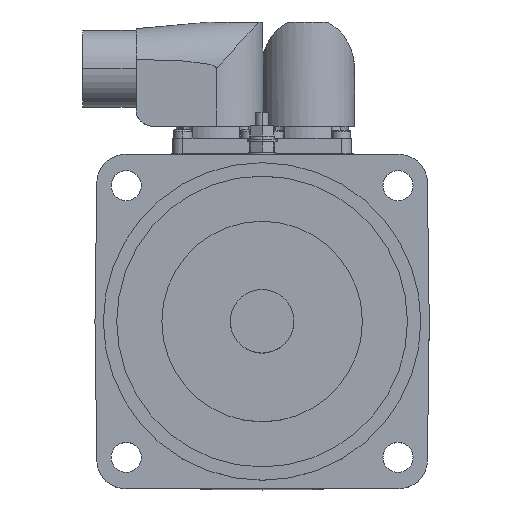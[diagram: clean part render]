
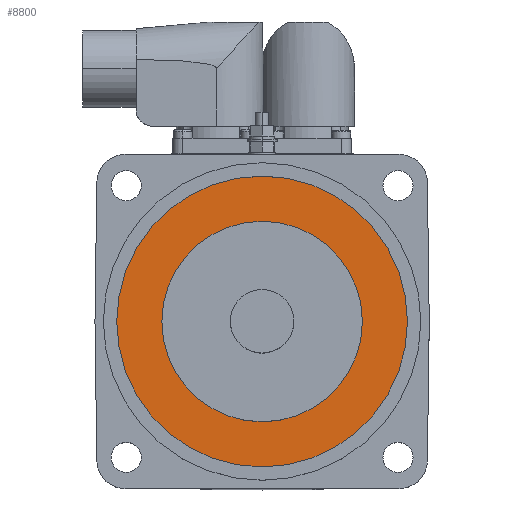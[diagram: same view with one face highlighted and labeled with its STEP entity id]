
A CAD part, top view. The second image highlights one B-rep face of the part: STEP entity #8800.
In plain terms, the highlighted planar face has unit normal (0, 0, 1).
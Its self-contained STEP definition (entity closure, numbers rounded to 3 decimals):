
#851 = CARTESIAN_POINT ( 'NONE',  ( 0., 43.5, 8. ) ) ;
#869 = PLANE ( 'NONE',  #8681 ) ;
#870 = DIRECTION ( 'NONE',  ( 0., 0., 1. ) ) ;
#871 = DIRECTION ( 'NONE',  ( 1., 0., 0. ) ) ;
#1561 = CARTESIAN_POINT ( 'NONE',  ( 43.5, 0., 8. ) ) ;
#1562 = CARTESIAN_POINT ( 'NONE',  ( -43.5, 0., 8. ) ) ;
#1565 = CARTESIAN_POINT ( 'NONE',  ( -30., 0., 8. ) ) ;
#1566 = CARTESIAN_POINT ( 'NONE',  ( 30., 0., 8. ) ) ;
#7445 = DIRECTION ( 'NONE',  ( 1., 0., 0. ) ) ;
#7447 = CARTESIAN_POINT ( 'NONE',  ( 0., 0., 8. ) ) ;
#7467 = CARTESIAN_POINT ( 'NONE',  ( 0., 0., 8. ) ) ;
#7468 = DIRECTION ( 'NONE',  ( 0., 0., 1. ) ) ;
#7469 = DIRECTION ( 'NONE',  ( 1., 0., 0. ) ) ;
#7476 = DIRECTION ( 'NONE',  ( 0., 0., 1. ) ) ;
#7674 = EDGE_CURVE ( 'NONE', #10277, #10276, #12887, .T. ) ;
#7678 = EDGE_CURVE ( 'NONE', #10273, #10271, #12894, .T. ) ;
#7838 = EDGE_CURVE ( 'NONE', #10271, #10273, #13145, .T. ) ;
#7840 = EDGE_CURVE ( 'NONE', #10276, #10277, #13148, .T. ) ;
#8344 = AXIS2_PLACEMENT_3D ( 'NONE', #7467, #7468, #7469 ) ;
#8349 = AXIS2_PLACEMENT_3D ( 'NONE', #7447, #7476, #7445 ) ;
#8417 = AXIS2_PLACEMENT_3D ( 'NONE', #9182, #9189, #9190 ) ;
#8419 = AXIS2_PLACEMENT_3D ( 'NONE', #9185, #9193, #9194 ) ;
#8681 = AXIS2_PLACEMENT_3D ( 'NONE', #851, #870, #871 ) ;
#8800 = ADVANCED_FACE ( 'NONE', ( #14756, #14757 ), #869, .T. ) ;
#9182 = CARTESIAN_POINT ( 'NONE',  ( 0., 0., 8. ) ) ;
#9185 = CARTESIAN_POINT ( 'NONE',  ( 0., 0., 8. ) ) ;
#9189 = DIRECTION ( 'NONE',  ( 0., 0., 1. ) ) ;
#9190 = DIRECTION ( 'NONE',  ( 1., 0., 0. ) ) ;
#9193 = DIRECTION ( 'NONE',  ( 0., 0., 1. ) ) ;
#9194 = DIRECTION ( 'NONE',  ( 1., 0., 0. ) ) ;
#10271 = VERTEX_POINT ( 'NONE', #1561 ) ;
#10273 = VERTEX_POINT ( 'NONE', #1562 ) ;
#10276 = VERTEX_POINT ( 'NONE', #1565 ) ;
#10277 = VERTEX_POINT ( 'NONE', #1566 ) ;
#11695 = EDGE_LOOP ( 'NONE', ( #13913, #13911 ) ) ;
#11730 = EDGE_LOOP ( 'NONE', ( #13914, #13915 ) ) ;
#12887 = CIRCLE ( 'NONE', #8344, 30. ) ;
#12894 = CIRCLE ( 'NONE', #8349, 43.5 ) ;
#13145 = CIRCLE ( 'NONE', #8417, 43.5 ) ;
#13148 = CIRCLE ( 'NONE', #8419, 30. ) ;
#13911 = ORIENTED_EDGE ( 'NONE', *, *, #7678, .T. ) ;
#13913 = ORIENTED_EDGE ( 'NONE', *, *, #7838, .T. ) ;
#13914 = ORIENTED_EDGE ( 'NONE', *, *, #7674, .F. ) ;
#13915 = ORIENTED_EDGE ( 'NONE', *, *, #7840, .F. ) ;
#14756 = FACE_OUTER_BOUND ( 'NONE', #11695, .T. ) ;
#14757 = FACE_BOUND ( 'NONE', #11730, .T. ) ;
